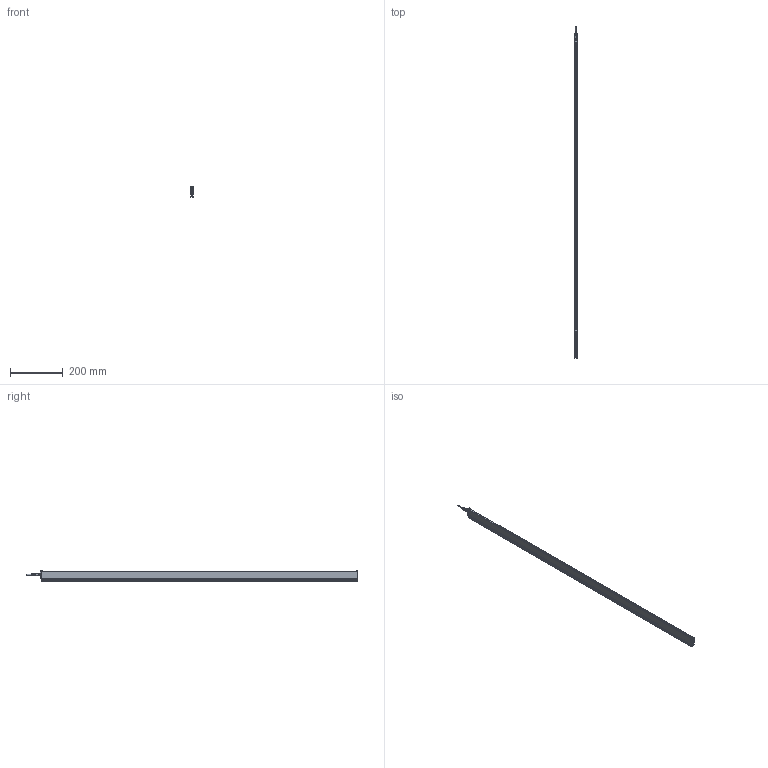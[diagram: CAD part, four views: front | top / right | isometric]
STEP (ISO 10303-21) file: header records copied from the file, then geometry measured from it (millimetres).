
FILE_DESCRIPTION (( 'STEP AP214' ), '1' );
FILE_NAME ('ILG-L-K2-1200mm.STEP', '2017-07-11T07:58:31', ( '' ), ( '' ), 'SwSTEP 2.0', 'SolidWorks 2016', '' );
FILE_SCHEMA (( 'AUTOMOTIVE_DESIGN' ));
Length unit declared in the file: millimetre
Products named in the file (1): ILG-L-K2-1200mm
Bounding box: 9 x 1254.5 x 40.71 mm (x, y, z)
Surface area: 239121.8 mm2 (no closed solid volume)
Topology: 0 solids, 13 shells, 679 faces, 1780 edges, 1131 vertices
Faces by surface type: cylinder 286, plane 255, cone 90, bspline 32, torus 16
Entity records: 30532 total; most frequent: CARTESIAN_POINT 6477, ORIENTED_EDGE 3513, DIRECTION 3392, EDGE_CURVE 1764, AXIS2_PLACEMENT_3D 1295, VERTEX_POINT 1131, LINE 802, VECTOR 802
